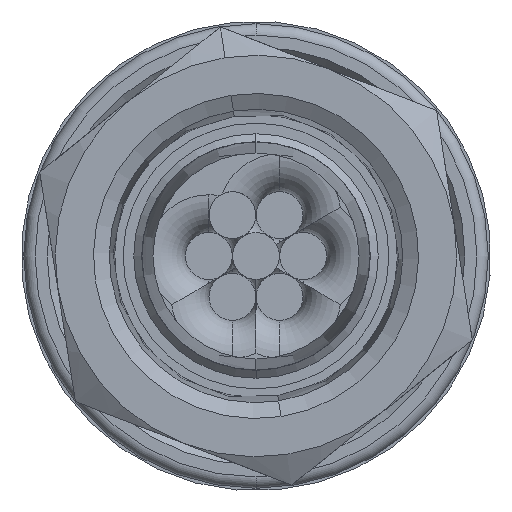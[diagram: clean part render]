
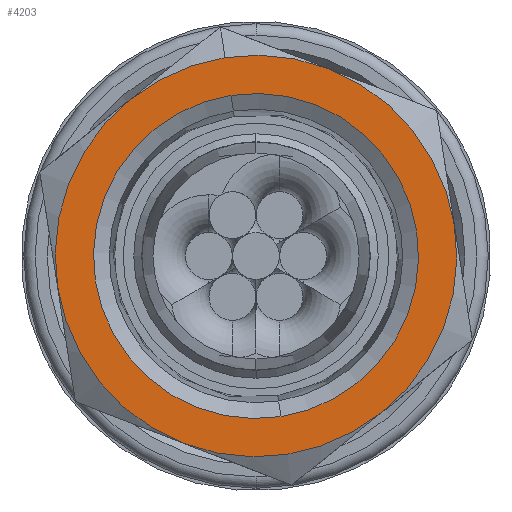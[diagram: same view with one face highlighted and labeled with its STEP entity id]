
A CAD part, front view. The second image highlights one B-rep face of the part: STEP entity #4203.
In plain terms, the highlighted planar face has unit normal (0, -1, 0).
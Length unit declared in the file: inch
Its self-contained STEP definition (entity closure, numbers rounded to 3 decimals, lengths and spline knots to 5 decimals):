
#50 = CARTESIAN_POINT ( 'NONE',  ( -0.19167, -0.607, -0.49547 ) ) ;
#138 = EDGE_CURVE ( 'NONE', #2953, #3308, #3067, .T. ) ;
#210 = DIRECTION ( 'NONE',  ( 0., -1., 0. ) ) ;
#221 = EDGE_CURVE ( 'NONE', #2726, #4374, #1098, .T. ) ;
#389 = CIRCLE ( 'NONE', #3375, 0.53125 ) ;
#426 = DIRECTION ( 'NONE',  ( 0.154, 0., -0.988 ) ) ;
#587 = EDGE_CURVE ( 'NONE', #616, #2659, #3149, .T. ) ;
#602 = AXIS2_PLACEMENT_3D ( 'NONE', #1359, #4501, #2745 ) ;
#616 = VERTEX_POINT ( 'NONE', #1049 ) ;
#644 = DIRECTION ( 'NONE',  ( 0.154, 0., -0.988 ) ) ;
#647 = FACE_OUTER_BOUND ( 'NONE', #1229, .T. ) ;
#719 = EDGE_CURVE ( 'NONE', #1654, #2953, #389, .T. ) ;
#730 = CARTESIAN_POINT ( 'NONE',  ( 0.52492, -0.607, 0.08174 ) ) ;
#762 = AXIS2_PLACEMENT_3D ( 'NONE', #2366, #1275, #4072 ) ;
#784 = CARTESIAN_POINT ( 'NONE',  ( -0.06616, -0.607, 0.42488 ) ) ;
#795 = DIRECTION ( 'NONE',  ( 0.154, 0., -0.988 ) ) ;
#824 = CARTESIAN_POINT ( 'NONE',  ( 0., -0.607, 0. ) ) ;
#982 = VERTEX_POINT ( 'NONE', #50 ) ;
#986 = CARTESIAN_POINT ( 'NONE',  ( -0.08174, -0.607, 0.52492 ) ) ;
#1027 = CARTESIAN_POINT ( 'NONE',  ( 0., -0.607, 0. ) ) ;
#1045 = EDGE_CURVE ( 'NONE', #982, #2726, #2930, .T. ) ;
#1049 = CARTESIAN_POINT ( 'NONE',  ( 0.06616, -0.607, -0.42488 ) ) ;
#1098 = CIRCLE ( 'NONE', #602, 0.53125 ) ;
#1119 = CARTESIAN_POINT ( 'NONE',  ( -0.52492, -0.607, -0.08174 ) ) ;
#1229 = EDGE_LOOP ( 'NONE', ( #2144, #2664, #2765, #3280, #3769, #3081, #3473 ) ) ;
#1254 = AXIS2_PLACEMENT_3D ( 'NONE', #4174, #3153, #426 ) ;
#1275 = DIRECTION ( 'NONE',  ( 0., 1., 0. ) ) ;
#1329 = ORIENTED_EDGE ( 'NONE', *, *, #1627, .F. ) ;
#1359 = CARTESIAN_POINT ( 'NONE',  ( 0., -0.607, 0. ) ) ;
#1553 = AXIS2_PLACEMENT_3D ( 'NONE', #2481, #4345, #795 ) ;
#1555 = DIRECTION ( 'NONE',  ( 0., -1., 0. ) ) ;
#1627 = EDGE_CURVE ( 'NONE', #2659, #616, #2547, .T. ) ;
#1654 = VERTEX_POINT ( 'NONE', #2648 ) ;
#1682 = AXIS2_PLACEMENT_3D ( 'NONE', #2330, #3722, #644 ) ;
#1724 = CIRCLE ( 'NONE', #3543, 0.53125 ) ;
#1761 = EDGE_CURVE ( 'NONE', #3860, #1654, #3066, .T. ) ;
#1867 = AXIS2_PLACEMENT_3D ( 'NONE', #2040, #210, #1975 ) ;
#1975 = DIRECTION ( 'NONE',  ( 0.154, 0., -0.988 ) ) ;
#2021 = CIRCLE ( 'NONE', #762, 0.53125 ) ;
#2040 = CARTESIAN_POINT ( 'NONE',  ( 0.6665, -0.607, -0.82746 ) ) ;
#2144 = ORIENTED_EDGE ( 'NONE', *, *, #1045, .F. ) ;
#2221 = DIRECTION ( 'NONE',  ( -0.154, 0., 0.988 ) ) ;
#2330 = CARTESIAN_POINT ( 'NONE',  ( 0., -0.607, 0. ) ) ;
#2338 = AXIS2_PLACEMENT_3D ( 'NONE', #2938, #1555, #2985 ) ;
#2366 = CARTESIAN_POINT ( 'NONE',  ( 0., -0.607, 0. ) ) ;
#2423 = DIRECTION ( 'NONE',  ( 0.154, 0., -0.988 ) ) ;
#2481 = CARTESIAN_POINT ( 'NONE',  ( 0., -0.607, 0. ) ) ;
#2547 = CIRCLE ( 'NONE', #2338, 0.43 ) ;
#2579 = DIRECTION ( 'NONE',  ( 0., 1., 0. ) ) ;
#2584 = ORIENTED_EDGE ( 'NONE', *, *, #587, .F. ) ;
#2648 = CARTESIAN_POINT ( 'NONE',  ( 0.19167, -0.607, 0.49547 ) ) ;
#2659 = VERTEX_POINT ( 'NONE', #784 ) ;
#2664 = ORIENTED_EDGE ( 'NONE', *, *, #3237, .F. ) ;
#2726 = VERTEX_POINT ( 'NONE', #1119 ) ;
#2745 = DIRECTION ( 'NONE',  ( 0.154, 0., -0.988 ) ) ;
#2765 = ORIENTED_EDGE ( 'NONE', *, *, #138, .F. ) ;
#2858 = DIRECTION ( 'NONE',  ( 0.154, 0., -0.988 ) ) ;
#2930 = CIRCLE ( 'NONE', #1553, 0.53125 ) ;
#2938 = CARTESIAN_POINT ( 'NONE',  ( 0., -0.607, 0. ) ) ;
#2953 = VERTEX_POINT ( 'NONE', #730 ) ;
#2985 = DIRECTION ( 'NONE',  ( 0.154, 0., -0.988 ) ) ;
#3066 = CIRCLE ( 'NONE', #1682, 0.53125 ) ;
#3067 = CIRCLE ( 'NONE', #1254, 0.53125 ) ;
#3081 = ORIENTED_EDGE ( 'NONE', *, *, #3376, .F. ) ;
#3149 = CIRCLE ( 'NONE', #3512, 0.43 ) ;
#3153 = DIRECTION ( 'NONE',  ( 0., 1., 0. ) ) ;
#3237 = EDGE_CURVE ( 'NONE', #3308, #982, #2021, .T. ) ;
#3262 = EDGE_LOOP ( 'NONE', ( #2584, #1329 ) ) ;
#3280 = ORIENTED_EDGE ( 'NONE', *, *, #719, .F. ) ;
#3308 = VERTEX_POINT ( 'NONE', #3461 ) ;
#3375 = AXIS2_PLACEMENT_3D ( 'NONE', #824, #2579, #2221 ) ;
#3376 = EDGE_CURVE ( 'NONE', #4374, #3860, #1724, .T. ) ;
#3428 = DIRECTION ( 'NONE',  ( 0., -1., 0. ) ) ;
#3461 = CARTESIAN_POINT ( 'NONE',  ( 0.33325, -0.607, -0.41373 ) ) ;
#3473 = ORIENTED_EDGE ( 'NONE', *, *, #221, .F. ) ;
#3512 = AXIS2_PLACEMENT_3D ( 'NONE', #1027, #3428, #2423 ) ;
#3525 = CARTESIAN_POINT ( 'NONE',  ( 0., -0.607, 0. ) ) ;
#3543 = AXIS2_PLACEMENT_3D ( 'NONE', #3525, #4224, #2858 ) ;
#3722 = DIRECTION ( 'NONE',  ( 0., 1., 0. ) ) ;
#3769 = ORIENTED_EDGE ( 'NONE', *, *, #1761, .F. ) ;
#3788 = FACE_BOUND ( 'NONE', #3262, .T. ) ;
#3860 = VERTEX_POINT ( 'NONE', #986 ) ;
#4012 = CARTESIAN_POINT ( 'NONE',  ( -0.33325, -0.607, 0.41373 ) ) ;
#4072 = DIRECTION ( 'NONE',  ( 0.154, 0., -0.988 ) ) ;
#4174 = CARTESIAN_POINT ( 'NONE',  ( 0., -0.607, 0. ) ) ;
#4203 = ADVANCED_FACE ( 'NONE', ( #3788, #647 ), #4423, .T. ) ;
#4224 = DIRECTION ( 'NONE',  ( 0., 1., 0. ) ) ;
#4345 = DIRECTION ( 'NONE',  ( 0., 1., 0. ) ) ;
#4374 = VERTEX_POINT ( 'NONE', #4012 ) ;
#4423 = PLANE ( 'NONE',  #1867 ) ;
#4501 = DIRECTION ( 'NONE',  ( 0., 1., 0. ) ) ;
